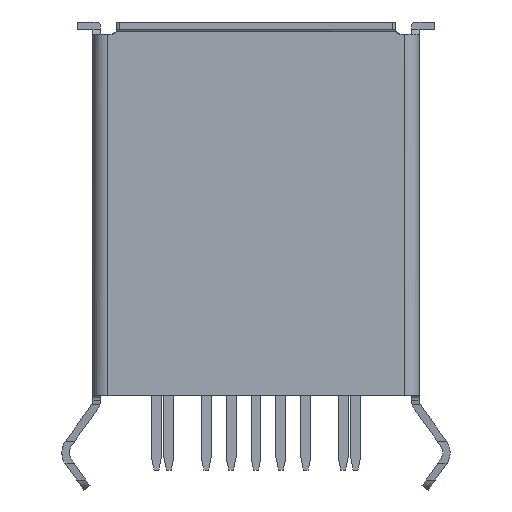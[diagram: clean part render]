
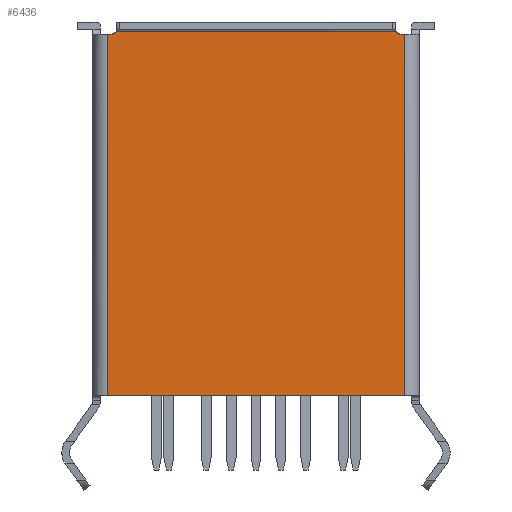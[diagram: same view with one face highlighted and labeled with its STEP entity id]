
A CAD part, front view. The second image highlights one B-rep face of the part: STEP entity #6436.
In plain terms, the highlighted planar face has unit normal (0, -1, 0).
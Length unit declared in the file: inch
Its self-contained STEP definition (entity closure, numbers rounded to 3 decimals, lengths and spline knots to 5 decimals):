
#17 = AXIS2_PLACEMENT_3D ( 'NONE', #5860, #6469, #5165 ) ;
#218 = DIRECTION ( 'NONE',  ( 0., 0., -1. ) ) ;
#240 = CARTESIAN_POINT ( 'NONE',  ( 0.22786, 0.02913, -0.01172 ) ) ;
#467 = CARTESIAN_POINT ( 'NONE',  ( -0.22768, 0.02913, -0.0191 ) ) ;
#909 = DIRECTION ( 'NONE',  ( 0., 0., 1. ) ) ;
#1017 = EDGE_CURVE ( 'NONE', #5529, #6273, #6850, .T. ) ;
#1170 = ORIENTED_EDGE ( 'NONE', *, *, #1988, .F. ) ;
#1387 = PLANE ( 'NONE',  #17 ) ;
#1435 = ORIENTED_EDGE ( 'NONE', *, *, #2825, .T. ) ;
#1789 = DIRECTION ( 'NONE',  ( 0., 0., -1. ) ) ;
#1892 = VECTOR ( 'NONE', #7378, 39.37008 ) ;
#1988 = EDGE_CURVE ( 'NONE', #6857, #6509, #2761, .T. ) ;
#2172 = ORIENTED_EDGE ( 'NONE', *, *, #1017, .T. ) ;
#2465 = VERTEX_POINT ( 'NONE', #3362 ) ;
#2588 = VERTEX_POINT ( 'NONE', #2958 ) ;
#2629 = VECTOR ( 'NONE', #8361, 39.37008 ) ;
#2653 = CARTESIAN_POINT ( 'NONE',  ( 0.23494, 0.02913, -0.0191 ) ) ;
#2761 = LINE ( 'NONE', #4738, #1892 ) ;
#2825 = EDGE_CURVE ( 'NONE', #6484, #6049, #6163, .T. ) ;
#2858 = ORIENTED_EDGE ( 'NONE', *, *, #6229, .T. ) ;
#2891 = CARTESIAN_POINT ( 'NONE',  ( -0.23494, 0.02913, -0.30286 ) ) ;
#2958 = CARTESIAN_POINT ( 'NONE',  ( 0.22768, 0.02913, -0.0191 ) ) ;
#3098 = VERTEX_POINT ( 'NONE', #7379 ) ;
#3130 = EDGE_CURVE ( 'NONE', #3098, #6273, #8062, .T. ) ;
#3152 = VECTOR ( 'NONE', #1789, 39.37008 ) ;
#3335 = FACE_OUTER_BOUND ( 'NONE', #5863, .T. ) ;
#3362 = CARTESIAN_POINT ( 'NONE',  ( 0.22087, 0.02913, -0.0141 ) ) ;
#3550 = VERTEX_POINT ( 'NONE', #5322 ) ;
#3576 = VECTOR ( 'NONE', #909, 39.37008 ) ;
#3704 = EDGE_CURVE ( 'NONE', #2588, #2465, #6321, .T. ) ;
#3764 = EDGE_CURVE ( 'NONE', #3550, #6857, #3912, .T. ) ;
#3912 = LINE ( 'NONE', #7139, #3152 ) ;
#4130 = ORIENTED_EDGE ( 'NONE', *, *, #3130, .F. ) ;
#4367 = DIRECTION ( 'NONE',  ( -1., 0., 0. ) ) ;
#4684 = AXIS2_PLACEMENT_3D ( 'NONE', #6916, #6179, #8083 ) ;
#4738 = CARTESIAN_POINT ( 'NONE',  ( -0.3937, 0.02913, -0.01516 ) ) ;
#5031 = LINE ( 'NONE', #5691, #2629 ) ;
#5165 = DIRECTION ( 'NONE',  ( 0., 0., -1. ) ) ;
#5322 = CARTESIAN_POINT ( 'NONE',  ( -0.22087, 0.02913, -0.0141 ) ) ;
#5343 = ORIENTED_EDGE ( 'NONE', *, *, #7084, .T. ) ;
#5348 = ORIENTED_EDGE ( 'NONE', *, *, #3764, .F. ) ;
#5517 = CARTESIAN_POINT ( 'NONE',  ( 0.23494, 0.02913, -0.59055 ) ) ;
#5529 = VERTEX_POINT ( 'NONE', #467 ) ;
#5532 = ORIENTED_EDGE ( 'NONE', *, *, #3704, .T. ) ;
#5621 = DIRECTION ( 'NONE',  ( 0., 1., 0. ) ) ;
#5691 = CARTESIAN_POINT ( 'NONE',  ( -0.19685, 0.02913, -0.59055 ) ) ;
#5702 = EDGE_CURVE ( 'NONE', #3550, #5529, #6320, .T. ) ;
#5797 = VECTOR ( 'NONE', #4367, 39.37008 ) ;
#5834 = LINE ( 'NONE', #6302, #5797 ) ;
#5860 = CARTESIAN_POINT ( 'NONE',  ( -0.3937, 0.02913, -0.30286 ) ) ;
#5863 = EDGE_LOOP ( 'NONE', ( #2858, #1435, #5343, #5532, #6322, #1170, #5348, #7208, #2172, #4130 ) ) ;
#6049 = VERTEX_POINT ( 'NONE', #2653 ) ;
#6120 = LINE ( 'NONE', #6729, #7739 ) ;
#6139 = CARTESIAN_POINT ( 'NONE',  ( -0.22087, 0.02913, -0.01516 ) ) ;
#6163 = LINE ( 'NONE', #7029, #6307 ) ;
#6179 = DIRECTION ( 'NONE',  ( 0., 1., 0. ) ) ;
#6227 = DIRECTION ( 'NONE',  ( -1., 0., 0. ) ) ;
#6229 = EDGE_CURVE ( 'NONE', #3098, #6484, #5031, .T. ) ;
#6273 = VERTEX_POINT ( 'NONE', #7680 ) ;
#6302 = CARTESIAN_POINT ( 'NONE',  ( -0.07842, 0.02913, -0.0191 ) ) ;
#6307 = VECTOR ( 'NONE', #8234, 39.37008 ) ;
#6320 = CIRCLE ( 'NONE', #4684, 0.00738 ) ;
#6321 = CIRCLE ( 'NONE', #6611, 0.00738 ) ;
#6322 = ORIENTED_EDGE ( 'NONE', *, *, #7734, .T. ) ;
#6436 = ADVANCED_FACE ( 'NONE', ( #3335 ), #1387, .T. ) ;
#6469 = DIRECTION ( 'NONE',  ( 0., -1., 0. ) ) ;
#6484 = VERTEX_POINT ( 'NONE', #5517 ) ;
#6509 = VERTEX_POINT ( 'NONE', #7386 ) ;
#6611 = AXIS2_PLACEMENT_3D ( 'NONE', #240, #5621, #6227 ) ;
#6729 = CARTESIAN_POINT ( 'NONE',  ( 0.22087, 0.02913, 0.01969 ) ) ;
#6850 = LINE ( 'NONE', #8190, #8087 ) ;
#6857 = VERTEX_POINT ( 'NONE', #6139 ) ;
#6916 = CARTESIAN_POINT ( 'NONE',  ( -0.22786, 0.02913, -0.01172 ) ) ;
#7029 = CARTESIAN_POINT ( 'NONE',  ( 0.23494, 0.02913, -0.30286 ) ) ;
#7084 = EDGE_CURVE ( 'NONE', #6049, #2588, #5834, .T. ) ;
#7139 = CARTESIAN_POINT ( 'NONE',  ( -0.22087, 0.02913, 0.01969 ) ) ;
#7208 = ORIENTED_EDGE ( 'NONE', *, *, #5702, .T. ) ;
#7378 = DIRECTION ( 'NONE',  ( 1., 0., 0. ) ) ;
#7379 = CARTESIAN_POINT ( 'NONE',  ( -0.23494, 0.02913, -0.59055 ) ) ;
#7386 = CARTESIAN_POINT ( 'NONE',  ( 0.22087, 0.02913, -0.01516 ) ) ;
#7429 = DIRECTION ( 'NONE',  ( -1., 0., 0. ) ) ;
#7680 = CARTESIAN_POINT ( 'NONE',  ( -0.23494, 0.02913, -0.0191 ) ) ;
#7734 = EDGE_CURVE ( 'NONE', #2465, #6509, #6120, .T. ) ;
#7739 = VECTOR ( 'NONE', #218, 39.37008 ) ;
#8062 = LINE ( 'NONE', #2891, #3576 ) ;
#8083 = DIRECTION ( 'NONE',  ( -1., 0., 0. ) ) ;
#8087 = VECTOR ( 'NONE', #7429, 39.37008 ) ;
#8190 = CARTESIAN_POINT ( 'NONE',  ( -0.31528, 0.02913, -0.0191 ) ) ;
#8234 = DIRECTION ( 'NONE',  ( 0., 0., 1. ) ) ;
#8361 = DIRECTION ( 'NONE',  ( 1., 0., 0. ) ) ;
